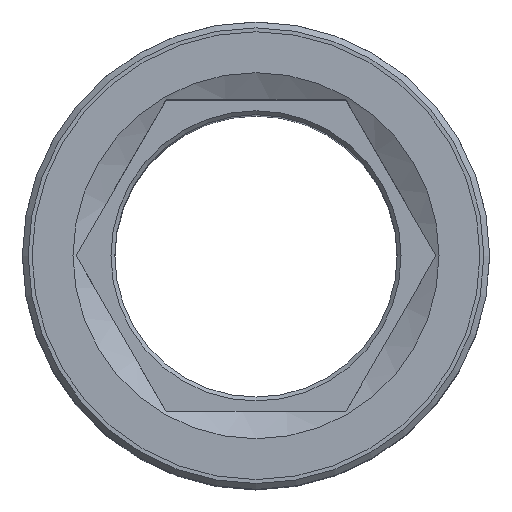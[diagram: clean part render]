
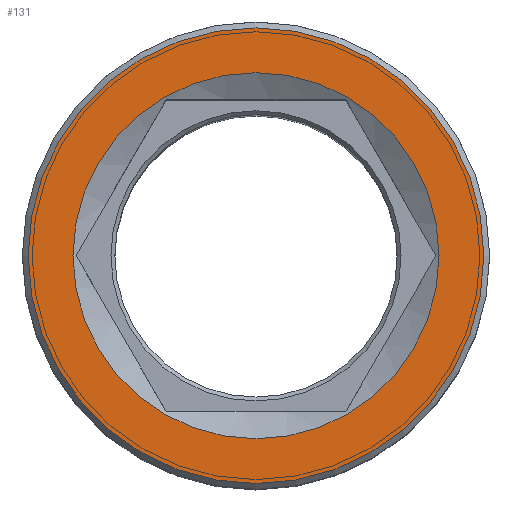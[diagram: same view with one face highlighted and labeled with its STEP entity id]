
A CAD part, top view. The second image highlights one B-rep face of the part: STEP entity #131.
In plain terms, the highlighted planar face has unit normal (0, 0, 1).
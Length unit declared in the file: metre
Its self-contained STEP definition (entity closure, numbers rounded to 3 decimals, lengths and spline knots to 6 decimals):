
#131=ADVANCED_FACE('',(#299,#300),#301,.F.);
#195=EDGE_CURVE('',#412,#412,#413,.T.);
#197=EDGE_CURVE('',#415,#415,#416,.T.);
#299=FACE_BOUND('',#524,.T.);
#300=FACE_OUTER_BOUND('',#525,.T.);
#301=PLANE('',#526);
#412=VERTEX_POINT('',#705);
#413=CIRCLE('',#706,0.0094);
#415=VERTEX_POINT('',#709);
#416=CIRCLE('',#710,0.0117);
#524=EDGE_LOOP('',(#903));
#525=EDGE_LOOP('',(#904));
#526=AXIS2_PLACEMENT_3D('',#905,#906,#907);
#705=CARTESIAN_POINT('',(0.0094,0.0,-0.001));
#706=AXIS2_PLACEMENT_3D('',#1052,#1053,#1054);
#709=CARTESIAN_POINT('',(0.0,0.0117,-0.001));
#710=AXIS2_PLACEMENT_3D('',#1055,#1056,#1057);
#903=ORIENTED_EDGE('',*,*,#195,.F.);
#904=ORIENTED_EDGE('',*,*,#197,.T.);
#905=CARTESIAN_POINT('',(-0.00255,0.,-0.001));
#906=DIRECTION('',(0.0,0.,-1.0));
#907=DIRECTION('',(0.0,-1.0,0.));
#1052=CARTESIAN_POINT('',(0.0,0.0,-0.001));
#1053=DIRECTION('',(0.0,0.0,1.0));
#1054=DIRECTION('',(1.0,0.0,0.0));
#1055=CARTESIAN_POINT('',(0.0,0.0,-0.001));
#1056=DIRECTION('',(0.0,0.,1.0));
#1057=DIRECTION('',(0.0,1.0,0.));
